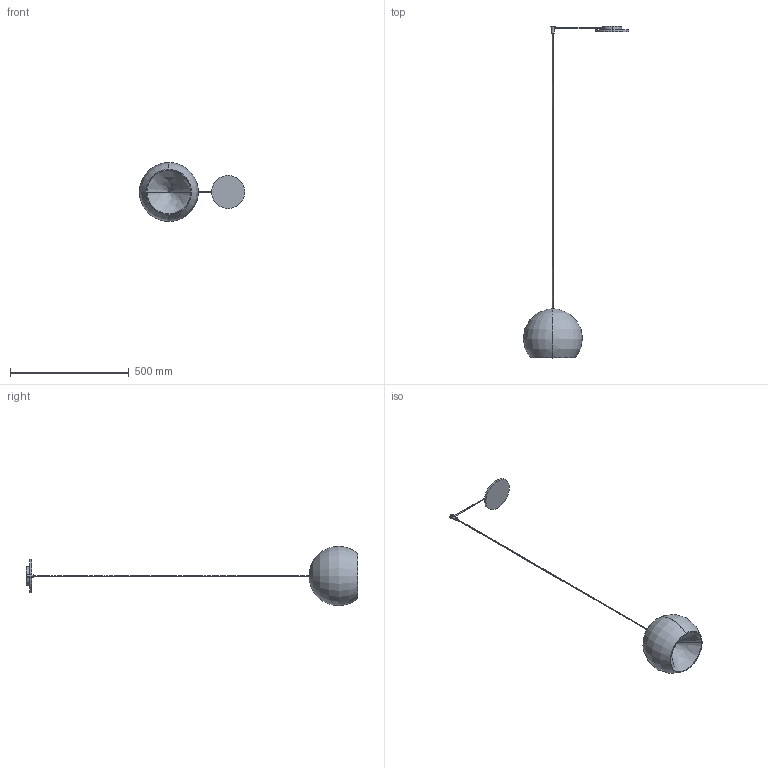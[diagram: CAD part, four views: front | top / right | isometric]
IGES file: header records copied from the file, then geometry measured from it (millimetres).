
Start section: SolidWorks IGES file using analytic representation for surfaces
Global section: file name: Y:\eforma\TECNICO\SOLIDWORKS\E-FORMA\09-LAMPADE\CHERRY MIX\02 parts\CRM01-00-CHERRY MIX_1 SOSPENSIONE.IGS; native system: SolidWorks 2022; preprocessor: SolidWorks 2022; author: eforma.tech; date: 250506.093231; units: millimetre
Bounding box: 444.99 x 1400 x 249.99 mm (x, y, z)
Volume: 601711.6 mm3; surface area: 461366.3 mm2
Topology: 6 solids, 6 shells, 43 faces, 88 edges, 56 vertices
Faces by surface type: revolution 28, plane 15
